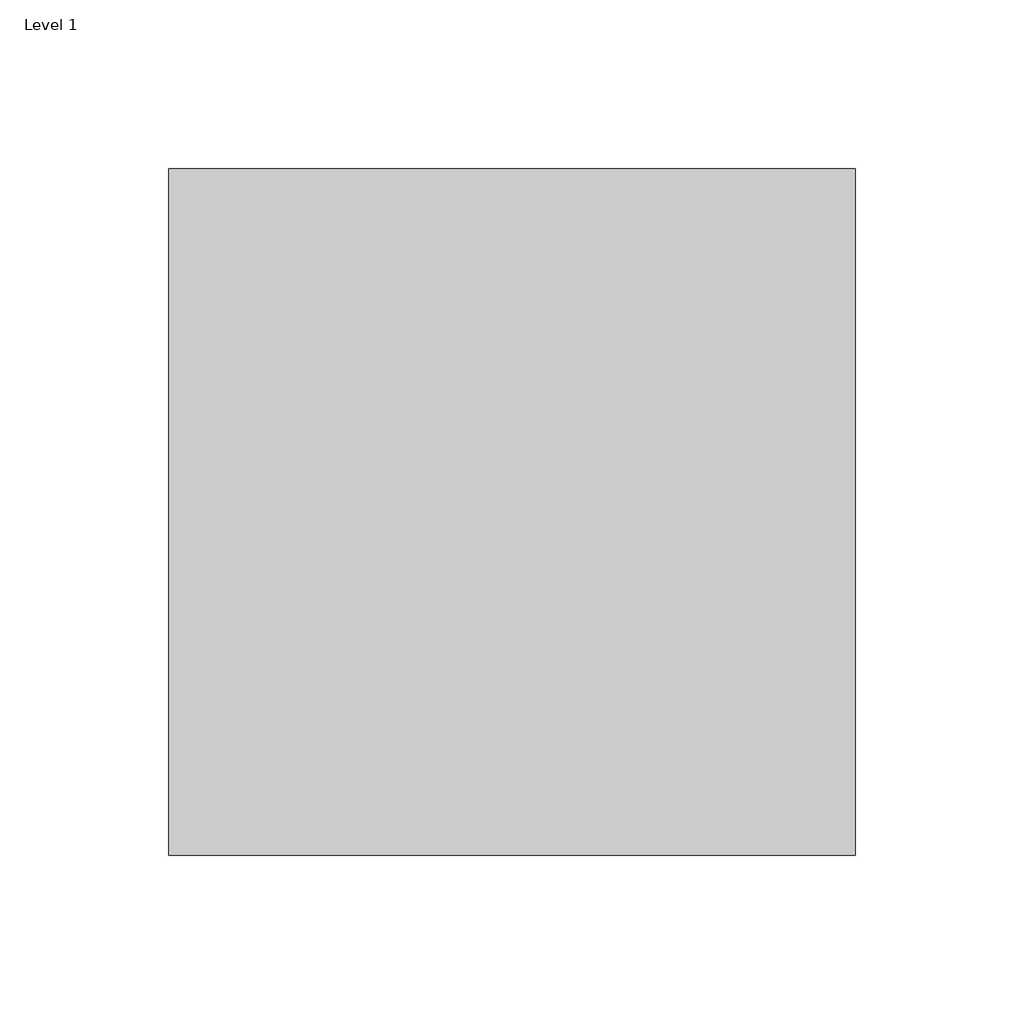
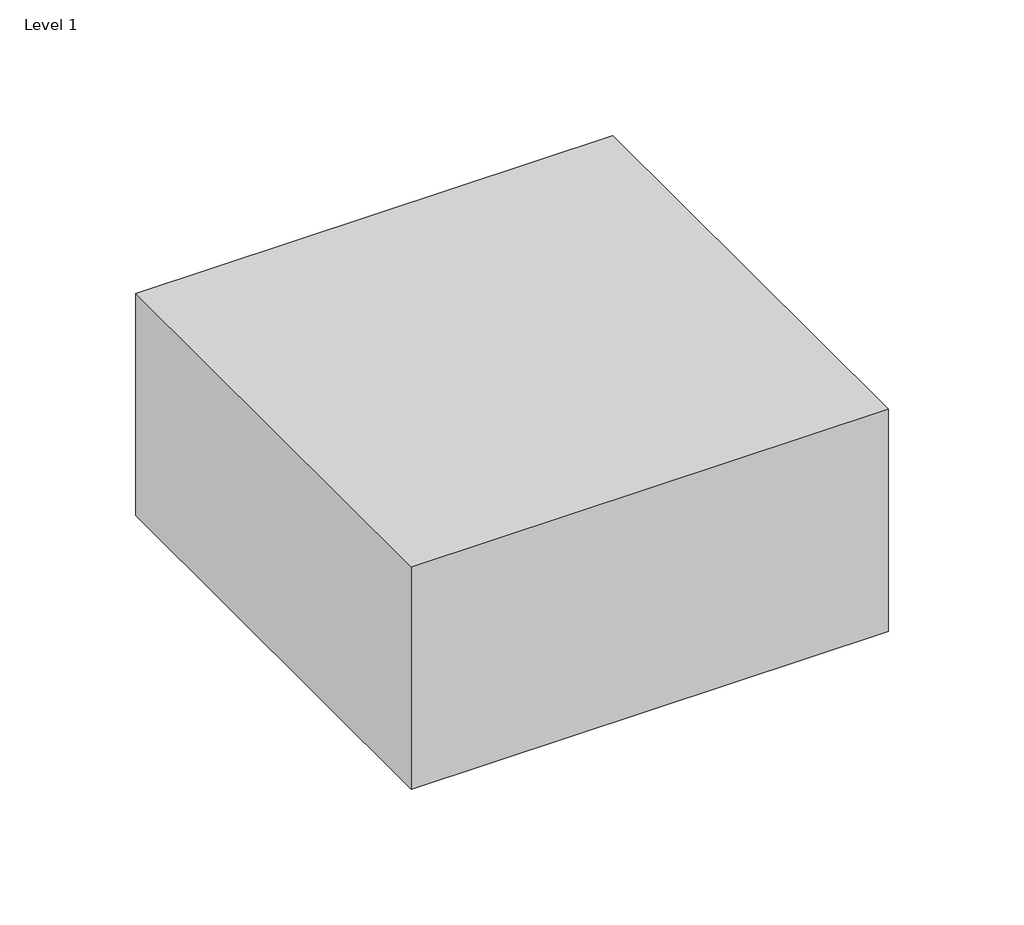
# One storey: 1 proxy.
"""IFC4 building model written with IfcOpenShell, lengths in millimetres."""

from ifc_helpers import new_model, si_unit, origin, place, context, project, spatial, transform, mapped, element, save
from components import generic_models_50af6dd3

model = new_model("IFC4")

# Units and contexts
model_context = context("Model", 3, world=origin())
ifc_project = project(units=[si_unit("LENGTHUNIT", "METRE", prefix="MILLI")], contexts=[model_context])

# Site, building, storey
site = spatial("IfcSite", under=ifc_project)
building = spatial("IfcBuilding", under=site)
storey = spatial("IfcBuildingStorey", under=building, Name="Level 1", Elevation=0.0)

# Proxy
placement = place(None, origin())
generic_models_shape = generic_models_50af6dd3(model_context)
element("IfcBuildingElementProxy", 1, Name="Placeholder_Polyseam : Placeholder_Polyseam", ObjectType="Placeholder_Polyseam : Placeholder_Polyseam", at=placement, inside=storey, context=model_context, shape_type="MappedRepresentation", body=[
    mapped(generic_models_shape, transform((2151.6, 2458.2666667, 0.0), x_axis=(1.0, 0.0, 0.0), y_axis=(0.0, 1.0, 0.0), z_axis=(0.0, 0.0, 1.0))),
])

save(model, "model.ifc")
